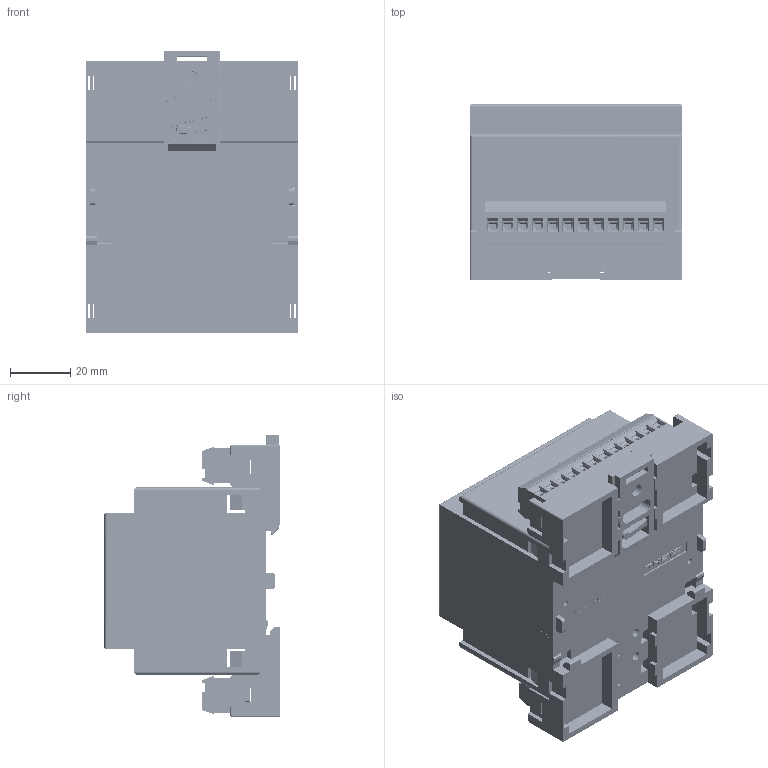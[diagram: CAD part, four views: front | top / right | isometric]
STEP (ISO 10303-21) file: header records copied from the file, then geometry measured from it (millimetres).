
FILE_DESCRIPTION (( 'STEP AP214' ), '1' );
FILE_NAME ('12400-1901-00_SolarYes_3D.STEP', '2014-06-17T12:24:56', ( '' ), ( '' ), 'SwSTEP 2.0', 'SolidWorks 2014', '' );
FILE_SCHEMA (( 'AUTOMOTIVE_DESIGN' ));
Length unit declared in the file: millimetre
Products named in the file (10): 1080 1950.4_3D_V4_UT; 12400-1901-00_SolarYes_3D; 31137102; 31137104; 31137108; 12400-1200-01_3D; V4_Frontplatte; 1080 1960.3_3D_V4_OT; V4_Leiterplatte; 1080 1990.5_V-Riegel_3D
Assembly tree (10 placements, depth 2):
  12400-1901-00_SolarYes_3D
    1080 1950.4_3D_V4_UT
    1080 1990.5_V-Riegel_3D
    V4_Leiterplatte
    1080 1960.3_3D_V4_OT
    V4_Frontplatte
    12400-1200-01_3D
    31137108  x2
    31137104
    31137102
Bounding box: 70.5 x 58.3 x 93.79 mm (x, y, z)
Volume: 72072 mm3; surface area: 89824.2 mm2
Topology: 512 solids, 512 shells, 7100 faces, 17835 edges, 11779 vertices
Faces by surface type: plane 5259, bspline 900, cylinder 709, cone 176, torus 38, sphere 18
Full cylindrical faces by diameter (mm): 1.5 x26, 1.6 x20, 1.8 x4, 2 x24, 2.25 x22, 2.4 x22, 2.7 x22, 2.8 x5, 3 x52, 3.5 x4, 3.658 x2, 3.9 x22, 4.2 x1, 4.5 x2, 6 x2
Entity records: 221029 total; most frequent: CARTESIAN_POINT 68320, ORIENTED_EDGE 30462, DIRECTION 25786, EDGE_CURVE 15231, VECTOR 11728, LINE 11728, VERTEX_POINT 10211, EDGE_LOOP 7176
